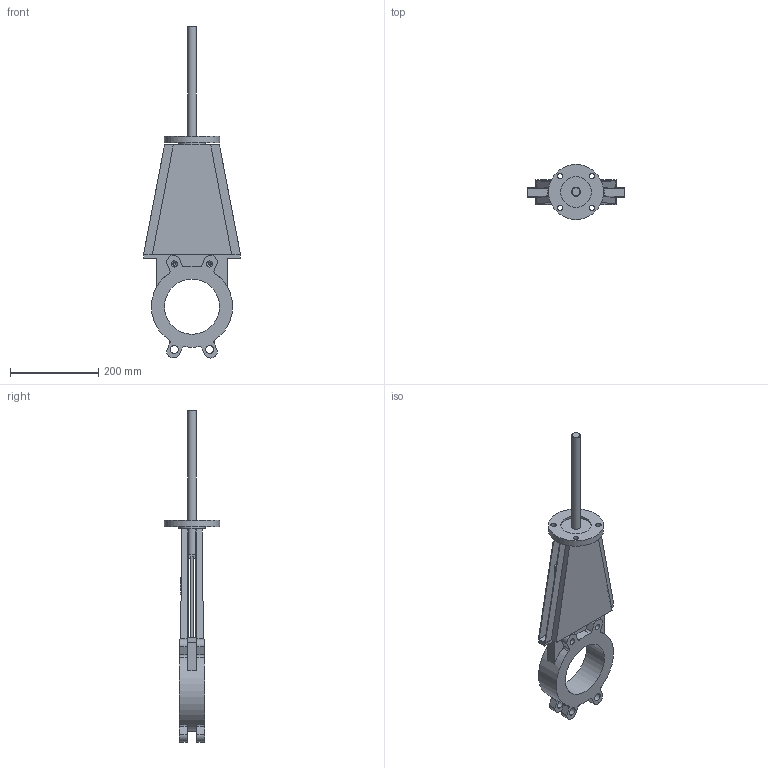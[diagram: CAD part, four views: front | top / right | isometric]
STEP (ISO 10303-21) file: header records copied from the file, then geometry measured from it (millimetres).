
FILE_DESCRIPTION(('STEP AP203'), '1');
FILE_NAME('K51GVA_DN125', '', ('UNSPECIFIED'), ('UNSPECIFIED'), 'ASCON STEP Converter 1.6', 'ASCON Math Kernel', '');
FILE_SCHEMA(('CONFIG_CONTROL_DESIGN'));
Length unit declared in the file: millimetre
Bounding box: 220 x 125 x 753.37 mm (x, y, z)
Volume: 1690983.8 mm3; surface area: 438669.5 mm2
Topology: 1 solids, 1 shells, 159 faces, 444 edges, 288 vertices
Faces by surface type: plane 100, cylinder 50, cone 9
Full cylindrical faces by diameter (mm): 12 x4, 13.835 x4, 18 x4, 20 x2, 60 x1, 70 x1, 125 x2, 184 x1
Entity records: 6306 total; most frequent: DIRECTION 868, CARTESIAN_POINT 856, ORIENTED_EDGE 824, EDGE_CURVE 412, AXIS2_PLACEMENT_3D 296, VERTEX_POINT 284, LINE 276, VECTOR 276
